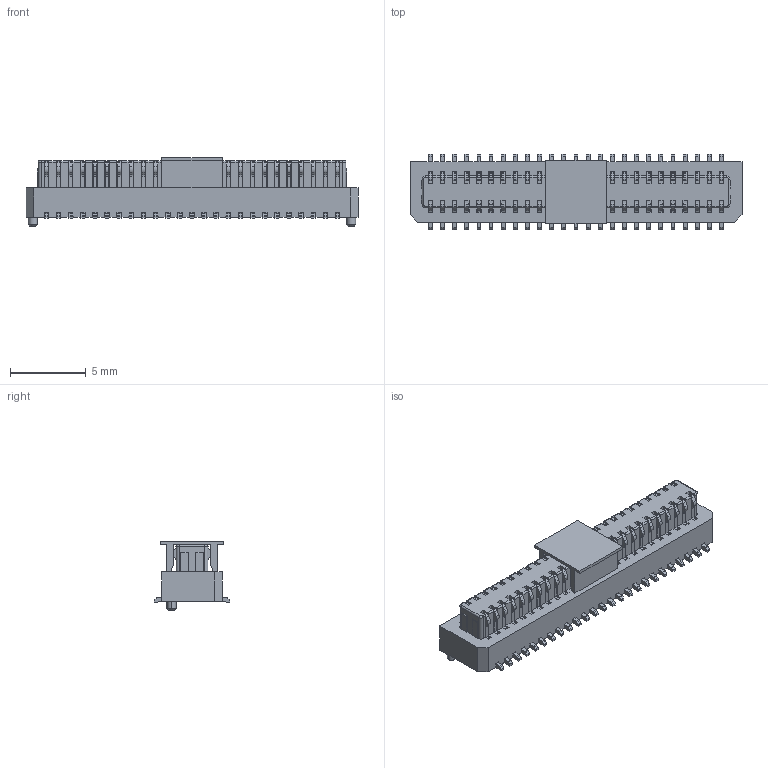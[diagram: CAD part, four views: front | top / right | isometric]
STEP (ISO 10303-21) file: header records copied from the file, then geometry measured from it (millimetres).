
FILE_DESCRIPTION(('CATIA V5 STEP Exchange'),'2;1');
FILE_NAME('F:\黄富鸿\板对板\PBB08B\公座\H3.8\带盖\HC-PBB08B-1-50-M-H3.8-XX-R-P-06 (BTB0.8 单槽 B型公座 立贴 带柱 编带+盖)-HCTL.stp','2026-01-27T07:49:26+00:00',('none'),('none'),'CATIA Version 5 Release 20 GA (IN-10)','CATIA V5 STEP AP203','none');
FILE_SCHEMA(('CONFIG_CONTROL_DESIGN'));
Products named in the file (1): Part1
Bounding box: 21.9 x 5 x 4.55 mm (x, y, z)
Volume: 244.2 mm3; surface area: 1164.2 mm2
Topology: 52 solids, 52 shells, 2717 faces, 8018 edges, 5308 vertices
Faces by surface type: plane 1847, cylinder 862, cone 4, torus 4
Entity records: 83536 total; most frequent: ORIENTED_EDGE 16036, CARTESIAN_POINT 15024, DIRECTION 11412, EDGE_CURVE 8018, VECTOR 6286, LINE 6286, VERTEX_POINT 5308, AXIS2_PLACEMENT_3D 3430
